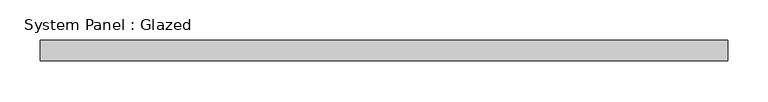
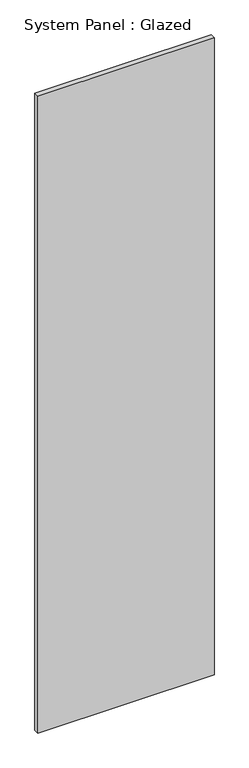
"""IFC4 building model written with IfcOpenShell, lengths in millimetres: plate geometry, System Panel : Glazed."""

import ifcopenshell
import ifcopenshell.guid

model = None  # the IFC model being written
_history = None  # IfcOwnerHistory: only IFC2X3 demands one
_inside = {}  # id of a spatial element -> (the spatial element, [elements in it])
_under = {}  # id of a project, library or spatial element -> (it, [spatial elements below it])
_declared = {}  # id of a project -> (the project, [libraries it declares])
_typed = {}  # id of a type object -> (the type object, [elements of that type])
_made_of = {}  # id of a material, layer set ... -> (it, [elements and type objects made of it])


def new_model(schema):
    """Start an empty IFC model of exactly this schema.

    Asked for "IFC4X3", IfcOpenShell would pick the latest addendum, in which some entities
    have other attributes; the version numbers below select the first issue.
    IFC2X3 requires an IfcOwnerHistory on every rooted entity: one is made here for all.
    """
    global model, _history
    if schema == "IFC4X3":
        model = ifcopenshell.file(schema_version=(4, 3, 0, 0))
    else:
        model = ifcopenshell.file(schema=schema)
    _inside.clear()
    _under.clear()
    _declared.clear()
    _typed.clear()
    _made_of.clear()
    _history = None
    if model.schema == "IFC2X3":
        org = make("IfcOrganization", Name="unknown")
        user = make(
            "IfcPersonAndOrganization",
            ThePerson=make("IfcPerson", FamilyName="unknown"),
            TheOrganization=org,
        )
        app = make(
            "IfcApplication",
            ApplicationDeveloper=org,
            Version="unknown",
            ApplicationFullName="unknown",
            ApplicationIdentifier="unknown",
        )
        _history = make(
            "IfcOwnerHistory",
            OwningUser=user,
            OwningApplication=app,
            ChangeAction="ADDED",
            CreationDate=0,
        )
    return model


def make(cls, **values):
    """One entity of the class cls with the attributes given. An attribute that is None is left unset."""
    return model.create_entity(
        cls, **{name: value for name, value in values.items() if value is not None}
    )


def rooted(cls, **values):
    """An entity with a GlobalId (a new one), such as an element, a storey or a relation."""
    return make(cls, GlobalId=ifcopenshell.guid.new(), OwnerHistory=_history, **values)


def si_unit(unit_type, name, prefix=None):
    """IfcSIUnit, for example si_unit("LENGTHUNIT", "METRE", prefix="MILLI")."""
    return make("IfcSIUnit", UnitType=unit_type, Prefix=prefix, Name=name)


def assignment(units):
    """IfcUnitAssignment: the units of a project."""
    return None if units is None else make("IfcUnitAssignment", Units=units)


def point(xyz):
    """IfcCartesianPoint."""
    return None if xyz is None else make("IfcCartesianPoint", Coordinates=xyz)


def direction(xyz):
    """IfcDirection."""
    return None if xyz is None else make("IfcDirection", DirectionRatios=xyz)


def frame(location, z_axis=None, x_axis=None):
    """IfcAxis2Placement3D, a coordinate frame: its origin and axes. An axis left out is left unset."""
    return make(
        "IfcAxis2Placement3D",
        Location=point(location),
        Axis=direction(z_axis),
        RefDirection=direction(x_axis),
    )


def origin():
    """The frame at (0, 0, 0) with its axes left unset."""
    return frame((0.0, 0.0, 0.0))


def origin_with_axes():
    """The frame at (0, 0, 0) with the z axis (0, 0, 1) and the x axis (1, 0, 0) written out."""
    return frame((0.0, 0.0, 0.0), z_axis=(0.0, 0.0, 1.0), x_axis=(1.0, 0.0, 0.0))


def place(relative_to, where):
    """IfcLocalPlacement: puts the frame where relative to a parent placement (None: the world)."""
    return make(
        "IfcLocalPlacement", PlacementRelTo=relative_to, RelativePlacement=where
    )


def context(
    kind, dimensions, precision=None, world=None, true_north=None, identifier=None
):
    """IfcGeometricRepresentationContext, for example the 3D "Model" context."""
    return make(
        "IfcGeometricRepresentationContext",
        ContextIdentifier=identifier,
        ContextType=kind,
        CoordinateSpaceDimension=dimensions,
        Precision=precision,
        WorldCoordinateSystem=world,
        TrueNorth=true_north,
    )


def project(units=None, contexts=None):
    """IfcProject with its units and contexts."""
    return rooted(
        "IfcProject",
        Name="project",
        RepresentationContexts=contexts,
        UnitsInContext=assignment(units),
    )


def spatial(cls, under=None, at=None, **own):
    """A site, building, storey or space (cls), placed at a placement, below another one or the project."""
    s = rooted(cls, ObjectPlacement=at, **own)
    if under is not None:
        _under.setdefault(under.id(), (under, []))[1].append(s)
    return s


def polyline(points):
    """IfcPolyline through the points."""
    return make("IfcPolyline", Points=[point(p) for p in points])


def outline(outer, holes=None, kind="AREA"):
    """IfcArbitraryClosedProfileDef: a profile drawn as a closed curve; with holes, ...WithVoids."""
    if holes is None:
        return make("IfcArbitraryClosedProfileDef", ProfileType=kind, OuterCurve=outer)
    return make(
        "IfcArbitraryProfileDefWithVoids",
        ProfileType=kind,
        OuterCurve=outer,
        InnerCurves=holes,
    )


def extrude(swept, where, along, depth):
    """IfcExtrudedAreaSolid: the profile swept, set in the frame where, extruded along a direction by depth."""
    return make(
        "IfcExtrudedAreaSolid",
        SweptArea=swept,
        Position=where,
        ExtrudedDirection=direction(along),
        Depth=depth,
    )


def shape(context_of_items, identifier, shape_type, items):
    """IfcShapeRepresentation: the items that make up one representation, for example the "Body"."""
    return make(
        "IfcShapeRepresentation",
        ContextOfItems=context_of_items,
        RepresentationIdentifier=identifier,
        RepresentationType=shape_type,
        Items=items,
    )


def source(mapping_origin, context_of_items, identifier, shape_type, items):
    """IfcRepresentationMap: a shape defined once, which mapped items show again and again."""
    return make(
        "IfcRepresentationMap",
        MappingOrigin=mapping_origin,
        MappedRepresentation=shape(context_of_items, identifier, shape_type, items),
    )


def transform(
    local_origin,
    x_axis=None,
    y_axis=None,
    z_axis=None,
    scale=None,
    scale2=None,
    scale3=None,
    uniform=True,
):
    """IfcCartesianTransformationOperator3D, or its non-uniform kind. x_axis, y_axis, z_axis: its Axis1, 2, 3."""
    if uniform:
        return make(
            "IfcCartesianTransformationOperator3D",
            Axis1=direction(x_axis),
            Axis2=direction(y_axis),
            LocalOrigin=point(local_origin),
            Scale=scale,
            Axis3=direction(z_axis),
        )
    return make(
        "IfcCartesianTransformationOperator3DnonUniform",
        Axis1=direction(x_axis),
        Axis2=direction(y_axis),
        LocalOrigin=point(local_origin),
        Scale=scale,
        Axis3=direction(z_axis),
        Scale2=scale2,
        Scale3=scale3,
    )


def mapped(mapping_source, mapping_target):
    """IfcMappedItem: shows the shape of a source again, moved by a transform."""
    return make(
        "IfcMappedItem", MappingSource=mapping_source, MappingTarget=mapping_target
    )


def made_of(thing, what):
    """Note that an element or type object is made of a material, layer set ...; save() writes the relation."""
    if what is not None:
        _made_of.setdefault(what.id(), (what, []))[1].append(thing)
    return thing


def element(
    cls,
    number,
    at=None,
    inside=None,
    cuts=None,
    type_object=None,
    material=None,
    context=None,
    identifier="Body",
    shape_type=None,
    held_by="IfcProductDefinitionShape",
    body=None,
    shapes=None,
    **own,
):
    """One element of the class cls, such as IfcWall. Its Tag is "e" and its number.

    at: its placement. inside: the storey or other place that contains it. cuts: it is an
    opening in that element (IfcRelVoidsElement). A single representation is given by context,
    identifier, shape_type and body (its items); several are given by shapes. held_by: the class
    of the entity that holds the representations. save() writes the other relations.
    """
    e = rooted(cls, Tag="e%d" % number, ObjectPlacement=at, **own)
    if body is not None:
        shapes = [shape(context, identifier, shape_type, body)]
    if shapes is not None:
        e.Representation = make(held_by, Representations=shapes)
    if inside is not None:
        _inside.setdefault(inside.id(), (inside, []))[1].append(e)
    if cuts is not None:
        rooted(
            "IfcRelVoidsElement", RelatingBuildingElement=cuts, RelatedOpeningElement=e
        )
    if type_object is not None:
        _typed.setdefault(type_object.id(), (type_object, []))[1].append(e)
    return made_of(e, material)


def aggregate(whole, parts):
    """IfcRelAggregates: a whole, such as a stair, and the parts it consists of."""
    return rooted("IfcRelAggregates", RelatingObject=whole, RelatedObjects=parts)


def save(model, path):
    """Write the relations noted so far, then the file.

    IfcRelAggregates (storeys below a building ...), IfcRelContainedInSpatialStructure (elements
    in a storey), IfcRelDefinesByType, IfcRelAssociatesMaterial and IfcRelDeclares: one each for
    every whole, place, type object, material and project.
    """
    for whole, parts in _under.values():
        aggregate(whole, parts)
    for where, things in _inside.values():
        rooted(
            "IfcRelContainedInSpatialStructure",
            RelatedElements=things,
            RelatingStructure=where,
        )
    for kind, things in _typed.values():
        rooted("IfcRelDefinesByType", RelatedObjects=things, RelatingType=kind)
    for what, things in _made_of.values():
        rooted("IfcRelAssociatesMaterial", RelatedObjects=things, RelatingMaterial=what)
    for by, libraries in _declared.values():
        rooted("IfcRelDeclares", RelatingContext=by, RelatedDefinitions=libraries)
    model.write(path)


def system_panel_glazed_7f3dea71(model_context):
    return source(origin(), model_context, "Body", "SweptSolid", [
        extrude(outline(polyline([(425.0, 24.5), (-425.0, 24.5), (-425.0, 49.5), (425.0, 49.5), (425.0, 24.5)])), origin_with_axes(), (0.0, 0.0, 1.0), 3250.0),
    ])


if __name__ == "__main__":
    model = new_model("IFC4")
    model_context = context("Model", 3, world=origin())
    ifc_project = project(units=[si_unit("LENGTHUNIT", "METRE", prefix="MILLI")], contexts=[model_context])
    site = spatial("IfcSite", under=ifc_project)
    building = spatial("IfcBuilding", under=site)
    placement = place(None, origin())
    system_panel_glazed_shape = system_panel_glazed_7f3dea71(model_context)
    element("IfcPlate", 1, ObjectType="System Panel : Glazed", at=placement, inside=building, context=model_context, shape_type="MappedRepresentation", body=[
        mapped(system_panel_glazed_shape, transform((0.0, 0.0, 0.0), x_axis=(1.0, 0.0, 0.0), y_axis=(0.0, 1.0, 0.0), z_axis=(0.0, 0.0, 1.0))),
    ])
    save(model, "model.ifc")
